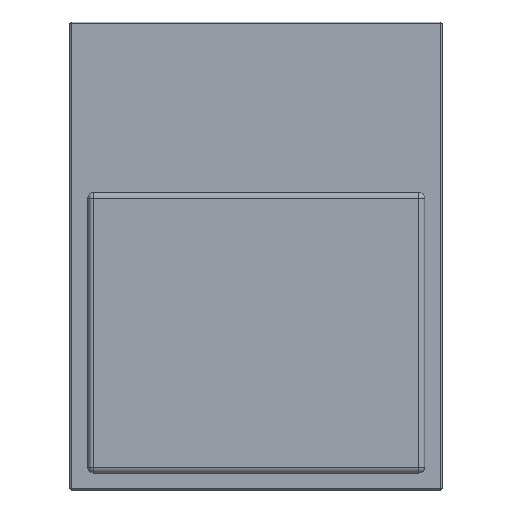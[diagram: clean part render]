
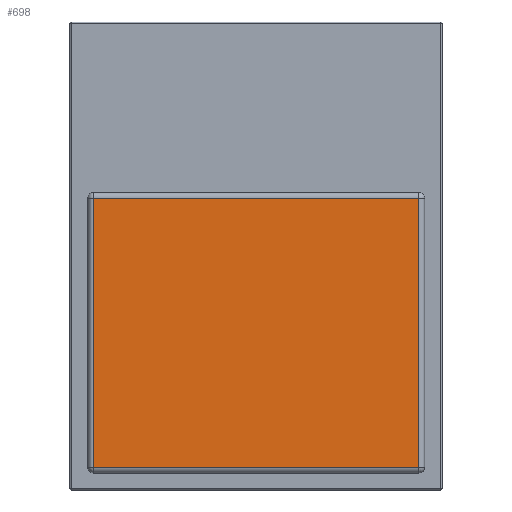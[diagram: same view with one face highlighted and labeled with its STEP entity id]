
A CAD part, top view. The second image highlights one B-rep face of the part: STEP entity #698.
In plain terms, the highlighted planar face has unit normal (0, 0, 1).
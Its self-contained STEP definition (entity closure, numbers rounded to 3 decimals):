
#124 = CYLINDRICAL_SURFACE('',#125,0.2);
#125 = AXIS2_PLACEMENT_3D('',#126,#127,#128);
#126 = CARTESIAN_POINT('',(-5.77,-5.,2.2));
#127 = DIRECTION('',(0.,1.,0.));
#128 = DIRECTION('',(-1.,0.,0.));
#223 = VERTEX_POINT('',#224);
#224 = CARTESIAN_POINT('',(-5.77,-4.8,2.4));
#244 = EDGE_CURVE('',#223,#245,#247,.T.);
#245 = VERTEX_POINT('',#246);
#246 = CARTESIAN_POINT('',(-5.77,4.75,2.4));
#247 = SURFACE_CURVE('',#248,(#252,#259),.PCURVE_S1.);
#248 = LINE('',#249,#250);
#249 = CARTESIAN_POINT('',(-5.77,-5.,2.4));
#250 = VECTOR('',#251,1.);
#251 = DIRECTION('',(0.,1.,0.));
#252 = PCURVE('',#124,#253);
#253 = DEFINITIONAL_REPRESENTATION('',(#254),#258);
#254 = LINE('',#255,#256);
#255 = CARTESIAN_POINT('',(1.571,0.));
#256 = VECTOR('',#257,1.);
#257 = DIRECTION('',(0.,1.));
#258 = ( GEOMETRIC_REPRESENTATION_CONTEXT(2) 
PARAMETRIC_REPRESENTATION_CONTEXT() REPRESENTATION_CONTEXT('2D SPACE',''
  ) );
#259 = PCURVE('',#260,#265);
#260 = PLANE('',#261);
#261 = AXIS2_PLACEMENT_3D('',#262,#263,#264);
#262 = CARTESIAN_POINT('',(-5.97,-5.,2.4));
#263 = DIRECTION('',(0.,0.,1.));
#264 = DIRECTION('',(1.,0.,0.));
#265 = DEFINITIONAL_REPRESENTATION('',(#266),#270);
#266 = LINE('',#267,#268);
#267 = CARTESIAN_POINT('',(0.2,0.));
#268 = VECTOR('',#269,1.);
#269 = DIRECTION('',(0.,1.));
#270 = ( GEOMETRIC_REPRESENTATION_CONTEXT(2) 
PARAMETRIC_REPRESENTATION_CONTEXT() REPRESENTATION_CONTEXT('2D SPACE',''
  ) );
#638 = CYLINDRICAL_SURFACE('',#639,0.2);
#639 = AXIS2_PLACEMENT_3D('',#640,#641,#642);
#640 = CARTESIAN_POINT('',(-5.97,-4.8,2.2));
#641 = DIRECTION('',(1.,0.,0.));
#642 = DIRECTION('',(0.,-1.,0.));
#698 = ADVANCED_FACE('',(#699),#260,.T.);
#699 = FACE_BOUND('',#700,.T.);
#700 = EDGE_LOOP('',(#701,#702,#725,#753));
#701 = ORIENTED_EDGE('',*,*,#244,.F.);
#702 = ORIENTED_EDGE('',*,*,#703,.T.);
#703 = EDGE_CURVE('',#223,#704,#706,.T.);
#704 = VERTEX_POINT('',#705);
#705 = CARTESIAN_POINT('',(5.78,-4.8,2.4));
#706 = SURFACE_CURVE('',#707,(#711,#718),.PCURVE_S1.);
#707 = LINE('',#708,#709);
#708 = CARTESIAN_POINT('',(-5.97,-4.8,2.4));
#709 = VECTOR('',#710,1.);
#710 = DIRECTION('',(1.,0.,0.));
#711 = PCURVE('',#260,#712);
#712 = DEFINITIONAL_REPRESENTATION('',(#713),#717);
#713 = LINE('',#714,#715);
#714 = CARTESIAN_POINT('',(0.,0.2));
#715 = VECTOR('',#716,1.);
#716 = DIRECTION('',(1.,0.));
#717 = ( GEOMETRIC_REPRESENTATION_CONTEXT(2) 
PARAMETRIC_REPRESENTATION_CONTEXT() REPRESENTATION_CONTEXT('2D SPACE',''
  ) );
#718 = PCURVE('',#638,#719);
#719 = DEFINITIONAL_REPRESENTATION('',(#720),#724);
#720 = LINE('',#721,#722);
#721 = CARTESIAN_POINT('',(-1.571,0.));
#722 = VECTOR('',#723,1.);
#723 = DIRECTION('',(-0.,1.));
#724 = ( GEOMETRIC_REPRESENTATION_CONTEXT(2) 
PARAMETRIC_REPRESENTATION_CONTEXT() REPRESENTATION_CONTEXT('2D SPACE',''
  ) );
#725 = ORIENTED_EDGE('',*,*,#726,.T.);
#726 = EDGE_CURVE('',#704,#727,#729,.T.);
#727 = VERTEX_POINT('',#728);
#728 = CARTESIAN_POINT('',(5.78,4.75,2.4));
#729 = SURFACE_CURVE('',#730,(#734,#741),.PCURVE_S1.);
#730 = LINE('',#731,#732);
#731 = CARTESIAN_POINT('',(5.78,-5.,2.4));
#732 = VECTOR('',#733,1.);
#733 = DIRECTION('',(0.,1.,0.));
#734 = PCURVE('',#260,#735);
#735 = DEFINITIONAL_REPRESENTATION('',(#736),#740);
#736 = LINE('',#737,#738);
#737 = CARTESIAN_POINT('',(11.75,0.));
#738 = VECTOR('',#739,1.);
#739 = DIRECTION('',(0.,1.));
#740 = ( GEOMETRIC_REPRESENTATION_CONTEXT(2) 
PARAMETRIC_REPRESENTATION_CONTEXT() REPRESENTATION_CONTEXT('2D SPACE',''
  ) );
#741 = PCURVE('',#742,#747);
#742 = CYLINDRICAL_SURFACE('',#743,0.2);
#743 = AXIS2_PLACEMENT_3D('',#744,#745,#746);
#744 = CARTESIAN_POINT('',(5.78,-5.,2.2));
#745 = DIRECTION('',(0.,1.,0.));
#746 = DIRECTION('',(1.,0.,0.));
#747 = DEFINITIONAL_REPRESENTATION('',(#748),#752);
#748 = LINE('',#749,#750);
#749 = CARTESIAN_POINT('',(-1.571,0.));
#750 = VECTOR('',#751,1.);
#751 = DIRECTION('',(-0.,1.));
#752 = ( GEOMETRIC_REPRESENTATION_CONTEXT(2) 
PARAMETRIC_REPRESENTATION_CONTEXT() REPRESENTATION_CONTEXT('2D SPACE',''
  ) );
#753 = ORIENTED_EDGE('',*,*,#754,.F.);
#754 = EDGE_CURVE('',#245,#727,#755,.T.);
#755 = SURFACE_CURVE('',#756,(#760,#767),.PCURVE_S1.);
#756 = LINE('',#757,#758);
#757 = CARTESIAN_POINT('',(-5.97,4.75,2.4));
#758 = VECTOR('',#759,1.);
#759 = DIRECTION('',(1.,0.,0.));
#760 = PCURVE('',#260,#761);
#761 = DEFINITIONAL_REPRESENTATION('',(#762),#766);
#762 = LINE('',#763,#764);
#763 = CARTESIAN_POINT('',(0.,9.75));
#764 = VECTOR('',#765,1.);
#765 = DIRECTION('',(1.,0.));
#766 = ( GEOMETRIC_REPRESENTATION_CONTEXT(2) 
PARAMETRIC_REPRESENTATION_CONTEXT() REPRESENTATION_CONTEXT('2D SPACE',''
  ) );
#767 = PCURVE('',#768,#773);
#768 = CYLINDRICAL_SURFACE('',#769,0.2);
#769 = AXIS2_PLACEMENT_3D('',#770,#771,#772);
#770 = CARTESIAN_POINT('',(-5.97,4.75,2.2));
#771 = DIRECTION('',(1.,0.,0.));
#772 = DIRECTION('',(0.,1.,0.));
#773 = DEFINITIONAL_REPRESENTATION('',(#774),#778);
#774 = LINE('',#775,#776);
#775 = CARTESIAN_POINT('',(1.571,0.));
#776 = VECTOR('',#777,1.);
#777 = DIRECTION('',(0.,1.));
#778 = ( GEOMETRIC_REPRESENTATION_CONTEXT(2) 
PARAMETRIC_REPRESENTATION_CONTEXT() REPRESENTATION_CONTEXT('2D SPACE',''
  ) );
